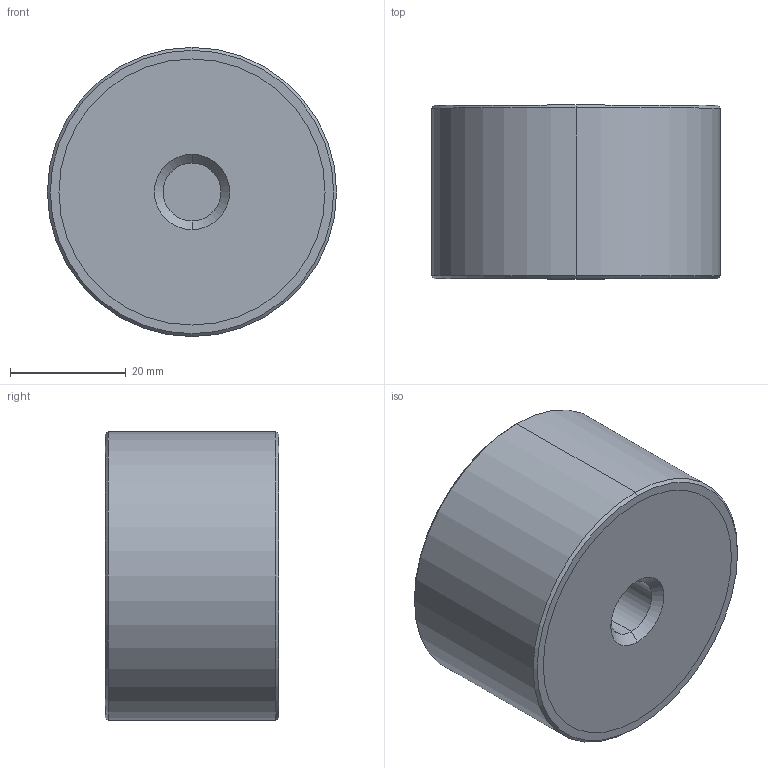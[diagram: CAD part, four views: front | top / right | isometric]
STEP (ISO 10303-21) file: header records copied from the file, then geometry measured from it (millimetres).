
FILE_DESCRIPTION (( 'STEP AP203' ), '1' );
FILE_NAME ('61080.W0501.step', '2018-07-16T20:44:59', ( '' ), ( '' ), 'SwSTEP 2.0', 'SolidWorks 2017', '' );
FILE_SCHEMA (( 'CONFIG_CONTROL_DESIGN' ));
Length unit declared in the file: millimetre
Products named in the file (4): Part1_61080.W0501; Part2_61080.W0501; 61080.W0501; Part3_61080.W0501
Assembly tree (3 placements, depth 2):
  61080.W0501
    Part1_61080.W0501
    Part2_61080.W0501
    Part3_61080.W0501
Bounding box: 50 x 30 x 50 mm (x, y, z)
Volume: 57217.3 mm3; surface area: 16326.2 mm2
Topology: 3 solids, 3 shells, 32 faces, 62 edges, 40 vertices
Faces by surface type: cylinder 14, plane 10, cone 8
Entity records: 1256 total; most frequent: DIRECTION 178, CARTESIAN_POINT 140, ORIENTED_EDGE 124, AXIS2_PLACEMENT_3D 78, EDGE_CURVE 62, CIRCLE 40, EDGE_LOOP 40, VERTEX_POINT 40
